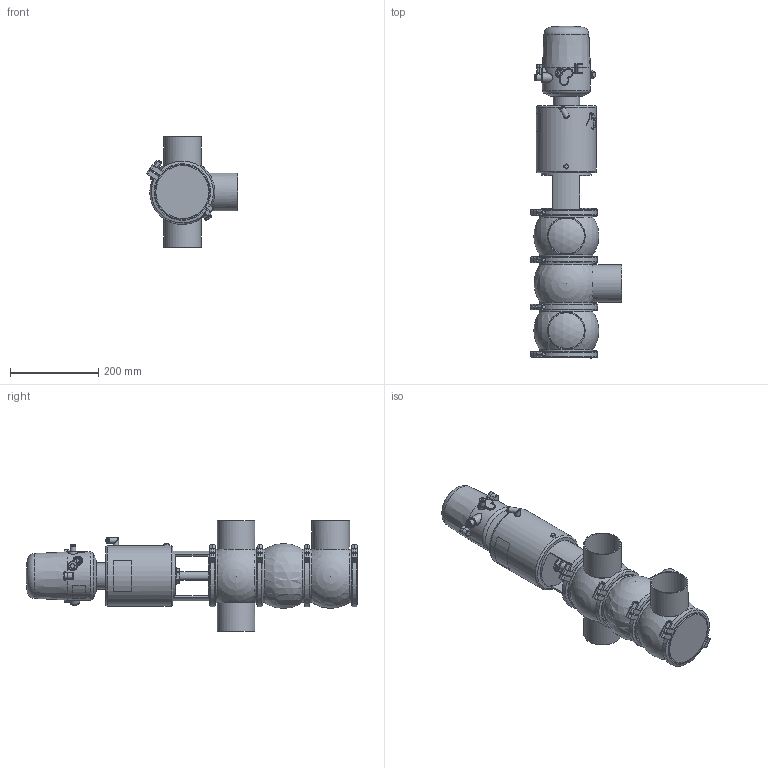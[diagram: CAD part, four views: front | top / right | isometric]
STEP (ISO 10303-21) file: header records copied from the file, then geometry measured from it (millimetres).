
FILE_DESCRIPTION (( 'STEP AP214' ), '1' );
FILE_NAME ('INNOVA L P W DIN 080 T3 AS NC & C-TOP S_10.241.16.0052.STEP', '2024-08-06T13:00:10', ( '' ), ( '' ), 'SwSTEP 2.0', 'SolidWorks 2023', '' );
FILE_SCHEMA (( 'AUTOMOTIVE_DESIGN' ));
Length unit declared in the file: millimetre
Products named in the file (9): 10.241.15.0001_DIN 080; 10.240.15.0001_DN 080; 10.240.15.0006_DIN 080; 10.240.15.0007_DIN 080; 10.240.15.0014_T3 AS P180; INNOVA L P W DIN 080 T3 AS NC & C-TOP S_10.241.16.0052; 10.426.15.0001_C-TOP S - 1 EV; 10.240.15.0017_Estàndard; 10.240.15.0010_DN 080
Assembly tree (12 placements, depth 2):
  INNOVA L P W DIN 080 T3 AS NC & C-TOP S_10.241.16.0052
    10.240.15.0007_DIN 080
    10.240.15.0006_DIN 080  x2
    10.240.15.0010_DN 080
    10.240.15.0014_T3 AS P180
    10.240.15.0017_Estàndard
    10.426.15.0001_C-TOP S - 1 EV
    10.240.15.0001_DN 080  x4
    10.241.15.0001_DIN 080
Bounding box: 206.43 x 750.63 x 250 mm (x, y, z)
Volume: 8915658.6 mm3; surface area: 752578.6 mm2
Topology: 13 solids, 13 shells, 1312 faces, 3218 edges, 2134 vertices
Faces by surface type: plane 478, cylinder 405, cone 221, bspline 160, torus 36, sphere 12
Full cylindrical faces by diameter (mm): 0.371 x17, 0.512 x16, 0.658 x16, 0.795 x16, 0.94 x15, 1.098 x15, 1.241 x13, 1.382 x13, 1.523 x11, 1.669 x10, 2.201 x1, 4 x2, 5.5 x2, 6 x2, 6.15 x1, 8 x10, 8.5 x1, 10 x1, 10.5 x1, 11 x2, 12.5 x3, 13 x2, 13.5 x2, 16 x1, 17 x3, 20 x3, 20.5 x1, 22 x2, 31 x1, 34.5 x3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
Entity records: 58226 total; most frequent: CARTESIAN_POINT 27819, ORIENTED_EDGE 4538, DIRECTION 3689, EDGE_CURVE 2269, VERTEX_POINT 1614, EDGE_LOOP 1575, AXIS2_PLACEMENT_3D 1516, FACE_OUTER_BOUND 1338
